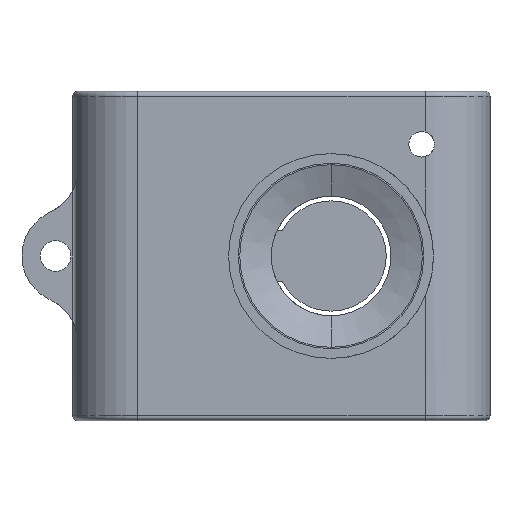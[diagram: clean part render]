
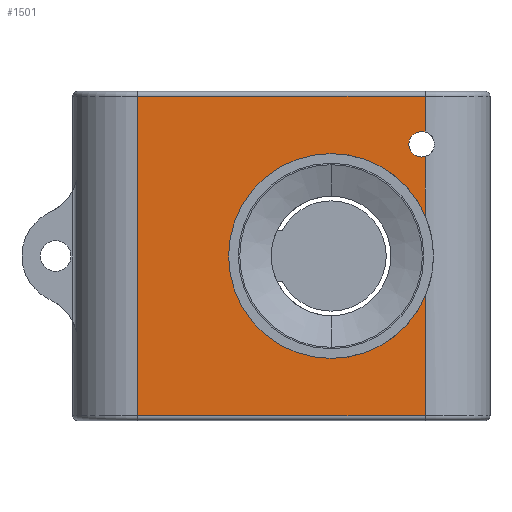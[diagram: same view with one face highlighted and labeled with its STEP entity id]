
A CAD part, front view. The second image highlights one B-rep face of the part: STEP entity #1501.
In plain terms, the highlighted planar face has unit normal (0, -1, 0).
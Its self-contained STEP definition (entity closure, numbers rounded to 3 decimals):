
#29 = EDGE_CURVE ( 'NONE', #99, #1793, #1280, .T. ) ;
#58 = CARTESIAN_POINT ( 'NONE',  ( -15.5, -7., -17.25 ) ) ;
#64 = DIRECTION ( 'NONE',  ( 0., -1., 0. ) ) ;
#70 = VECTOR ( 'NONE', #1525, 1000. ) ;
#74 = CARTESIAN_POINT ( 'NONE',  ( -15.5, -7., -17.75 ) ) ;
#82 = EDGE_CURVE ( 'NONE', #1243, #1346, #1537, .T. ) ;
#87 = CARTESIAN_POINT ( 'NONE',  ( 15.5, -7., -17.75 ) ) ;
#91 = DIRECTION ( 'NONE',  ( 0., -1., 0. ) ) ;
#93 = DIRECTION ( 'NONE',  ( 0., 0., 1. ) ) ;
#99 = VERTEX_POINT ( 'NONE', #1447 ) ;
#100 = EDGE_CURVE ( 'NONE', #1243, #1764, #1137, .T. ) ;
#122 = VECTOR ( 'NONE', #1134, 1000. ) ;
#150 = ORIENTED_EDGE ( 'NONE', *, *, #293, .T. ) ;
#166 = VECTOR ( 'NONE', #1270, 1000. ) ;
#174 = ORIENTED_EDGE ( 'NONE', *, *, #493, .T. ) ;
#194 = CARTESIAN_POINT ( 'NONE',  ( 15.125, -7., 12.05 ) ) ;
#208 = ORIENTED_EDGE ( 'NONE', *, *, #439, .F. ) ;
#220 = ORIENTED_EDGE ( 'NONE', *, *, #508, .F. ) ;
#222 = EDGE_CURVE ( 'NONE', #1346, #1429, #943, .T. ) ;
#226 = CARTESIAN_POINT ( 'NONE',  ( 5.356, -7., 0. ) ) ;
#264 = DIRECTION ( 'NONE',  ( 0., -1., 0. ) ) ;
#274 = CARTESIAN_POINT ( 'NONE',  ( 15.125, -7., 12.05 ) ) ;
#293 = EDGE_CURVE ( 'NONE', #1078, #99, #1218, .T. ) ;
#321 = VERTEX_POINT ( 'NONE', #1491 ) ;
#345 = DIRECTION ( 'NONE',  ( 0., 0., 1. ) ) ;
#365 = CIRCLE ( 'NONE', #764, 11.05 ) ;
#367 = DIRECTION ( 'NONE',  ( 0., 0., -1. ) ) ;
#400 = CARTESIAN_POINT ( 'NONE',  ( 15.5, -7., 17.25 ) ) ;
#413 = DIRECTION ( 'NONE',  ( 0., 0., 1. ) ) ;
#416 = EDGE_CURVE ( 'NONE', #1793, #803, #560, .T. ) ;
#425 = CARTESIAN_POINT ( 'NONE',  ( 15.125, -7., 13.425 ) ) ;
#439 = EDGE_CURVE ( 'NONE', #891, #803, #923, .T. ) ;
#463 = AXIS2_PLACEMENT_3D ( 'NONE', #1173, #264, #1328 ) ;
#468 = CIRCLE ( 'NONE', #573, 11.05 ) ;
#476 = ORIENTED_EDGE ( 'NONE', *, *, #222, .T. ) ;
#493 = EDGE_CURVE ( 'NONE', #891, #1294, #1567, .T. ) ;
#500 = ORIENTED_EDGE ( 'NONE', *, *, #416, .T. ) ;
#508 = EDGE_CURVE ( 'NONE', #321, #719, #365, .T. ) ;
#560 = LINE ( 'NONE', #1839, #166 ) ;
#573 = AXIS2_PLACEMENT_3D ( 'NONE', #226, #1285, #367 ) ;
#579 = ORIENTED_EDGE ( 'NONE', *, *, #1740, .T. ) ;
#606 = CARTESIAN_POINT ( 'NONE',  ( 15.5, -7., -17.25 ) ) ;
#643 = LINE ( 'NONE', #1867, #1069 ) ;
#719 = VERTEX_POINT ( 'NONE', #1160 ) ;
#720 = DIRECTION ( 'NONE',  ( 0., 1., 0. ) ) ;
#731 = CARTESIAN_POINT ( 'NONE',  ( -15.5, -7., -17.25 ) ) ;
#751 = FACE_OUTER_BOUND ( 'NONE', #1523, .T. ) ;
#764 = AXIS2_PLACEMENT_3D ( 'NONE', #969, #64, #1125 ) ;
#780 = VECTOR ( 'NONE', #990, 1000. ) ;
#793 = AXIS2_PLACEMENT_3D ( 'NONE', #274, #1339, #413 ) ;
#803 = VERTEX_POINT ( 'NONE', #1170 ) ;
#846 = ORIENTED_EDGE ( 'NONE', *, *, #82, .T. ) ;
#871 = EDGE_CURVE ( 'NONE', #1429, #1078, #1378, .T. ) ;
#891 = VERTEX_POINT ( 'NONE', #731 ) ;
#923 = LINE ( 'NONE', #74, #122 ) ;
#943 = CIRCLE ( 'NONE', #1446, 1.375 ) ;
#969 = CARTESIAN_POINT ( 'NONE',  ( 5.356, -7., 0. ) ) ;
#990 = DIRECTION ( 'NONE',  ( 0., 0., 1. ) ) ;
#997 = CARTESIAN_POINT ( 'NONE',  ( 5.356, -7., 0. ) ) ;
#1037 = ORIENTED_EDGE ( 'NONE', *, *, #1336, .F. ) ;
#1069 = VECTOR ( 'NONE', #93, 1000. ) ;
#1078 = VERTEX_POINT ( 'NONE', #425 ) ;
#1117 = DIRECTION ( 'NONE',  ( 1., 0., 0. ) ) ;
#1125 = DIRECTION ( 'NONE',  ( 0., 0., -1. ) ) ;
#1134 = DIRECTION ( 'NONE',  ( 0., 0., 1. ) ) ;
#1137 = CIRCLE ( 'NONE', #1558, 11.05 ) ;
#1154 = DIRECTION ( 'NONE',  ( 0., 0., -1. ) ) ;
#1160 = CARTESIAN_POINT ( 'NONE',  ( 15.5, -7., -4.381 ) ) ;
#1170 = CARTESIAN_POINT ( 'NONE',  ( -15.5, -7., 17.25 ) ) ;
#1173 = CARTESIAN_POINT ( 'NONE',  ( -15.5, -7., -17.75 ) ) ;
#1191 = VECTOR ( 'NONE', #1117, 1000. ) ;
#1218 = CIRCLE ( 'NONE', #1380, 1.375 ) ;
#1243 = VERTEX_POINT ( 'NONE', #1518 ) ;
#1259 = DIRECTION ( 'NONE',  ( 0., 1., 0. ) ) ;
#1270 = DIRECTION ( 'NONE',  ( -1., 0., 0. ) ) ;
#1276 = ORIENTED_EDGE ( 'NONE', *, *, #29, .T. ) ;
#1280 = LINE ( 'NONE', #1376, #70 ) ;
#1285 = DIRECTION ( 'NONE',  ( 0., -1., 0. ) ) ;
#1294 = VERTEX_POINT ( 'NONE', #606 ) ;
#1318 = CARTESIAN_POINT ( 'NONE',  ( 15.125, -7., 10.675 ) ) ;
#1328 = DIRECTION ( 'NONE',  ( 0., 0., -1. ) ) ;
#1336 = EDGE_CURVE ( 'NONE', #1764, #321, #468, .T. ) ;
#1339 = DIRECTION ( 'NONE',  ( 0., 1., 0. ) ) ;
#1346 = VERTEX_POINT ( 'NONE', #1848 ) ;
#1376 = CARTESIAN_POINT ( 'NONE',  ( 15.5, -7., -17.75 ) ) ;
#1378 = CIRCLE ( 'NONE', #793, 1.375 ) ;
#1380 = AXIS2_PLACEMENT_3D ( 'NONE', #1610, #720, #1753 ) ;
#1429 = VERTEX_POINT ( 'NONE', #1318 ) ;
#1446 = AXIS2_PLACEMENT_3D ( 'NONE', #194, #1259, #345 ) ;
#1447 = CARTESIAN_POINT ( 'NONE',  ( 15.5, -7., 13.373 ) ) ;
#1473 = ORIENTED_EDGE ( 'NONE', *, *, #100, .F. ) ;
#1491 = CARTESIAN_POINT ( 'NONE',  ( 5.356, -7., -11.05 ) ) ;
#1501 = ADVANCED_FACE ( 'NONE', ( #751 ), #1888, .T. ) ;
#1518 = CARTESIAN_POINT ( 'NONE',  ( 15.5, -7., 4.381 ) ) ;
#1523 = EDGE_LOOP ( 'NONE', ( #1473, #846, #476, #1678, #150, #1276, #500, #208, #174, #579, #220, #1037 ) ) ;
#1525 = DIRECTION ( 'NONE',  ( 0., 0., 1. ) ) ;
#1537 = LINE ( 'NONE', #87, #780 ) ;
#1558 = AXIS2_PLACEMENT_3D ( 'NONE', #997, #91, #1154 ) ;
#1567 = LINE ( 'NONE', #58, #1191 ) ;
#1610 = CARTESIAN_POINT ( 'NONE',  ( 15.125, -7., 12.05 ) ) ;
#1678 = ORIENTED_EDGE ( 'NONE', *, *, #871, .T. ) ;
#1740 = EDGE_CURVE ( 'NONE', #1294, #719, #643, .T. ) ;
#1753 = DIRECTION ( 'NONE',  ( 0., 0., 1. ) ) ;
#1764 = VERTEX_POINT ( 'NONE', #1877 ) ;
#1793 = VERTEX_POINT ( 'NONE', #400 ) ;
#1839 = CARTESIAN_POINT ( 'NONE',  ( -15.5, -7., 17.25 ) ) ;
#1848 = CARTESIAN_POINT ( 'NONE',  ( 15.5, -7., 10.727 ) ) ;
#1867 = CARTESIAN_POINT ( 'NONE',  ( 15.5, -7., -17.75 ) ) ;
#1877 = CARTESIAN_POINT ( 'NONE',  ( 5.356, -7., 11.05 ) ) ;
#1888 = PLANE ( 'NONE',  #463 ) ;
